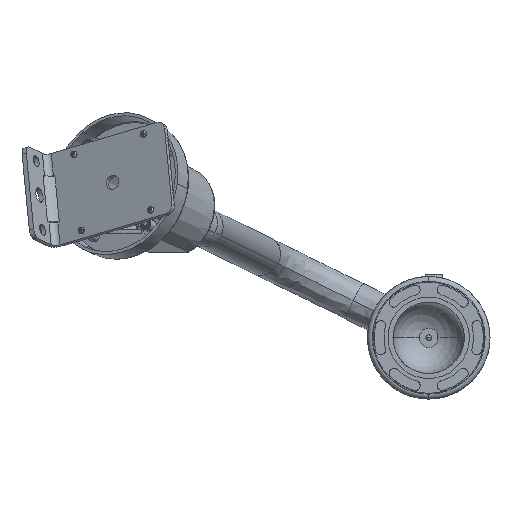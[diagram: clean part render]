
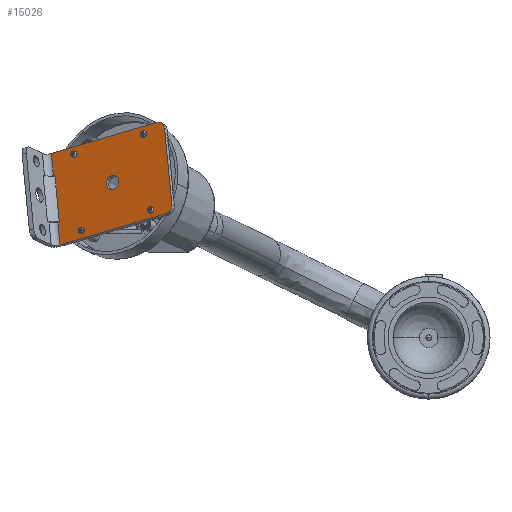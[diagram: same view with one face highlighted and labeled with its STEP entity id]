
A CAD part, left-side view. The second image highlights one B-rep face of the part: STEP entity #15026.
In plain terms, the highlighted planar face has unit normal (-0.82, 0.513, 0.252).
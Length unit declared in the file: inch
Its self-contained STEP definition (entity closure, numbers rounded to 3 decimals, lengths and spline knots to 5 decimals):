
#206=CARTESIAN_POINT('',(1.65618,9.24994,-1.68459));
#207=DIRECTION('',(0.82,-0.513,-0.252));
#208=DIRECTION('',(-0.572,-0.736,-0.362));
#209=AXIS2_PLACEMENT_3D('',#206,#207,#208);
#211=CARTESIAN_POINT('',(1.65618,9.24994,-1.68459));
#212=DIRECTION('',(0.82,-0.513,-0.252));
#213=DIRECTION('',(0.572,0.736,0.362));
#214=AXIS2_PLACEMENT_3D('',#211,#212,#213);
#216=CARTESIAN_POINT('',(1.36482,8.16274,-0.41953));
#217=DIRECTION('',(0.82,-0.513,-0.252));
#218=DIRECTION('',(0.344,0.09,0.935));
#219=AXIS2_PLACEMENT_3D('',#216,#217,#218);
#221=CARTESIAN_POINT('',(0.68766,7.9856,-2.25939));
#222=DIRECTION('',(0.82,-0.513,-0.252));
#223=DIRECTION('',(-0.457,-0.853,0.25));
#224=AXIS2_PLACEMENT_3D('',#221,#222,#223);
#226=CARTESIAN_POINT('',(0.86767,8.32157,-2.35799));
#227=DIRECTION('',(-0.82,0.513,0.252));
#228=DIRECTION('',(0.214,-0.134,0.968));
#229=AXIS2_PLACEMENT_3D('',#226,#227,#228);
#231=CARTESIAN_POINT('',(0.86767,8.32157,-2.35799));
#232=DIRECTION('',(-0.82,0.513,0.252));
#233=DIRECTION('',(-0.214,0.134,-0.968));
#234=AXIS2_PLACEMENT_3D('',#231,#232,#233);
#236=CARTESIAN_POINT('',(1.76772,10.00142,-2.85098));
#237=DIRECTION('',(-0.82,0.513,0.252));
#238=DIRECTION('',(0.214,-0.134,0.968));
#239=AXIS2_PLACEMENT_3D('',#236,#237,#238);
#241=CARTESIAN_POINT('',(1.76772,10.00142,-2.85098));
#242=DIRECTION('',(-0.82,0.513,0.252));
#243=DIRECTION('',(-0.214,0.134,-0.968));
#244=AXIS2_PLACEMENT_3D('',#241,#242,#243);
#246=CARTESIAN_POINT('',(2.44488,10.17855,-1.01112));
#247=DIRECTION('',(-0.82,0.513,0.252));
#248=DIRECTION('',(0.214,-0.134,0.968));
#249=AXIS2_PLACEMENT_3D('',#246,#247,#248);
#251=CARTESIAN_POINT('',(2.44488,10.17855,-1.01112));
#252=DIRECTION('',(-0.82,0.513,0.252));
#253=DIRECTION('',(-0.214,0.134,-0.968));
#254=AXIS2_PLACEMENT_3D('',#251,#252,#253);
#256=CARTESIAN_POINT('',(1.54483,8.4987,-0.51813));
#257=DIRECTION('',(-0.82,0.513,0.252));
#258=DIRECTION('',(0.214,-0.134,0.968));
#259=AXIS2_PLACEMENT_3D('',#256,#257,#258);
#261=CARTESIAN_POINT('',(1.54483,8.4987,-0.51813));
#262=DIRECTION('',(-0.82,0.513,0.252));
#263=DIRECTION('',(-0.214,0.134,-0.968));
#264=AXIS2_PLACEMENT_3D('',#261,#262,#263);
#465=DIRECTION('',(0.344,0.09,0.935));
#466=VECTOR('',#465,1.9685);
#467=CARTESIAN_POINT('',(0.59765,7.81762,-2.21009));
#468=LINE('',#467,#466);
#538=DIRECTION('',(0.457,0.853,-0.25));
#539=VECTOR('',#538,2.99213);
#540=CARTESIAN_POINT('',(1.43253,8.18045,-0.23554));
#541=LINE('',#540,#539);
#600=DIRECTION('',(-0.344,-0.09,-0.935));
#601=VECTOR('',#600,0.59055);
#602=CARTESIAN_POINT('',(2.80061,10.73381,-0.98489));
#603=LINE('',#602,#601);
#609=DIRECTION('',(-0.457,-0.853,0.25));
#610=VECTOR('',#609,0.03937);
#611=CARTESIAN_POINT('',(2.59746,10.68067,-1.53685));
#612=LINE('',#611,#610);
#675=DIRECTION('',(0.457,0.853,-0.25));
#676=VECTOR('',#675,0.03937);
#677=CARTESIAN_POINT('',(2.17316,10.5408,-2.6309));
#678=LINE('',#677,#676);
#688=DIRECTION('',(-0.344,-0.09,-0.935));
#689=VECTOR('',#688,1.1811);
#690=CARTESIAN_POINT('',(2.57946,10.64708,-1.52699));
#691=LINE('',#690,#689);
#692=DIRECTION('',(-0.344,-0.09,-0.935));
#693=VECTOR('',#692,0.59055);
#694=CARTESIAN_POINT('',(2.19117,10.57439,-2.64076));
#695=LINE('',#694,#693);
#722=DIRECTION('',(-0.457,-0.853,0.25));
#723=VECTOR('',#722,2.99213);
#724=CARTESIAN_POINT('',(1.98802,10.52126,-3.19272));
#725=LINE('',#724,#723);
#13199=CARTESIAN_POINT('',(1.98802,10.52126,
-3.19272));
#13200=VERTEX_POINT('',#13199);
#13201=CARTESIAN_POINT('',(0.61994,7.96789,
-2.44338));
#13202=VERTEX_POINT('',#13201);
#13247=CARTESIAN_POINT('',(0.59765,7.81762,
-2.21009));
#13248=VERTEX_POINT('',#13247);
#13249=CARTESIAN_POINT('',(1.27481,7.99475,
-0.37023));
#13250=VERTEX_POINT('',#13249);
#13266=CARTESIAN_POINT('',(1.43253,8.18045,
-0.23554));
#13267=VERTEX_POINT('',#13266);
#13268=CARTESIAN_POINT('',(2.80061,10.73381,
-0.98489));
#13269=VERTEX_POINT('',#13268);
#13986=CARTESIAN_POINT('',(2.17316,10.5408,
-2.6309));
#13987=VERTEX_POINT('',#13986);
#13988=CARTESIAN_POINT('',(2.19117,10.57439,
-2.64076));
#13989=VERTEX_POINT('',#13988);
#13990=CARTESIAN_POINT('',(2.57946,10.64708,
-1.52699));
#13991=VERTEX_POINT('',#13990);
#13992=CARTESIAN_POINT('',(2.59746,10.68067,
-1.53685));
#13993=VERTEX_POINT('',#13992);
#13994=CARTESIAN_POINT('',(0.88451,8.31103,
-2.2818));
#13995=CARTESIAN_POINT('',(0.85082,8.33212,
-2.43418));
#13996=VERTEX_POINT('',#13994);
#13997=VERTEX_POINT('',#13995);
#13998=CARTESIAN_POINT('',(1.78456,9.99087,
-2.77479));
#13999=CARTESIAN_POINT('',(1.75087,10.01197,
-2.92717));
#14000=VERTEX_POINT('',#13998);
#14001=VERTEX_POINT('',#13999);
#14002=CARTESIAN_POINT('',(2.46172,10.168,
-0.93493));
#14003=CARTESIAN_POINT('',(2.42803,10.1891,
-1.08731));
#14004=VERTEX_POINT('',#14002);
#14005=VERTEX_POINT('',#14003);
#14006=CARTESIAN_POINT('',(1.56167,8.48816,
-0.44194));
#14007=CARTESIAN_POINT('',(1.52798,8.50925,
-0.59432));
#14008=VERTEX_POINT('',#14006);
#14009=VERTEX_POINT('',#14007);
#14733=CARTESIAN_POINT('',(1.55481,9.11954,
-1.74869));
#14734=CARTESIAN_POINT('',(1.75755,9.38033,
-1.62049));
#14735=VERTEX_POINT('',#14733);
#14736=VERTEX_POINT('',#14734);
#14970=CARTESIAN_POINT('',(1.66527,9.26686,
-1.68948));
#14971=DIRECTION('',(0.82,-0.513,-0.252));
#14972=DIRECTION('',(-0.457,-0.853,0.25));
#14973=AXIS2_PLACEMENT_3D('',#14970,#14971,#14972);
#14974=PLANE('',#14973);
#14976=ORIENTED_EDGE('',*,*,#14975,.F.);
#14978=ORIENTED_EDGE('',*,*,#14977,.F.);
#14980=ORIENTED_EDGE('',*,*,#14979,.F.);
#14982=ORIENTED_EDGE('',*,*,#14981,.F.);
#14984=ORIENTED_EDGE('',*,*,#14983,.F.);
#14986=ORIENTED_EDGE('',*,*,#14985,.T.);
#14988=ORIENTED_EDGE('',*,*,#14987,.F.);
#14990=ORIENTED_EDGE('',*,*,#14989,.T.);
#14992=ORIENTED_EDGE('',*,*,#14991,.F.);
#14994=ORIENTED_EDGE('',*,*,#14993,.F.);
#14995=EDGE_LOOP('',(#14976,#14978,#14980,#14982,#14984,#14986,#14988,#14990,
#14992,#14994));
#14996=FACE_OUTER_BOUND('',#14995,.F.);
#14998=ORIENTED_EDGE('',*,*,#14997,.F.);
#15000=ORIENTED_EDGE('',*,*,#14999,.F.);
#15001=EDGE_LOOP('',(#14998,#15000));
#15002=FACE_BOUND('',#15001,.F.);
#15004=ORIENTED_EDGE('',*,*,#15003,.T.);
#15006=ORIENTED_EDGE('',*,*,#15005,.T.);
#15007=EDGE_LOOP('',(#15004,#15006));
#15008=FACE_BOUND('',#15007,.F.);
#15010=ORIENTED_EDGE('',*,*,#15009,.T.);
#15011=ORIENTED_EDGE('',*,*,#14959,.T.);
#15012=EDGE_LOOP('',(#15010,#15011));
#15013=FACE_BOUND('',#15012,.F.);
#15015=ORIENTED_EDGE('',*,*,#15014,.T.);
#15017=ORIENTED_EDGE('',*,*,#15016,.T.);
#15018=EDGE_LOOP('',(#15015,#15017));
#15019=FACE_BOUND('',#15018,.F.);
#15021=ORIENTED_EDGE('',*,*,#15020,.T.);
#15023=ORIENTED_EDGE('',*,*,#15022,.T.);
#15024=EDGE_LOOP('',(#15021,#15023));
#15025=FACE_BOUND('',#15024,.F.);
#15026=ADVANCED_FACE('',(#14996,#15002,#15008,#15013,#15019,#15025),#14974,.F.);
#210=CIRCLE('',#209,0.17717);
#215=CIRCLE('',#214,0.17717);
#220=CIRCLE('',#219,0.19685);
#225=CIRCLE('',#224,0.19685);
#230=CIRCLE('',#229,0.07874);
#235=CIRCLE('',#234,0.07874);
#240=CIRCLE('',#239,0.07874);
#245=CIRCLE('',#244,0.07874);
#250=CIRCLE('',#249,0.07874);
#255=CIRCLE('',#254,0.07874);
#260=CIRCLE('',#259,0.07874);
#265=CIRCLE('',#264,0.07874);
#14959=EDGE_CURVE('',#14001,#14000,#245,.T.);
#14975=EDGE_CURVE('',#13987,#13989,#678,.T.);
#14977=EDGE_CURVE('',#13991,#13987,#691,.T.);
#14979=EDGE_CURVE('',#13993,#13991,#612,.T.);
#14981=EDGE_CURVE('',#13269,#13993,#603,.T.);
#14983=EDGE_CURVE('',#13267,#13269,#541,.T.);
#14985=EDGE_CURVE('',#13267,#13250,#220,.T.);
#14987=EDGE_CURVE('',#13248,#13250,#468,.T.);
#14989=EDGE_CURVE('',#13248,#13202,#225,.T.);
#14991=EDGE_CURVE('',#13200,#13202,#725,.T.);
#14993=EDGE_CURVE('',#13989,#13200,#695,.T.);
#14997=EDGE_CURVE('',#14735,#14736,#210,.T.);
#14999=EDGE_CURVE('',#14736,#14735,#215,.T.);
#15003=EDGE_CURVE('',#13996,#13997,#230,.T.);
#15005=EDGE_CURVE('',#13997,#13996,#235,.T.);
#15009=EDGE_CURVE('',#14000,#14001,#240,.T.);
#15014=EDGE_CURVE('',#14004,#14005,#250,.T.);
#15016=EDGE_CURVE('',#14005,#14004,#255,.T.);
#15020=EDGE_CURVE('',#14008,#14009,#260,.T.);
#15022=EDGE_CURVE('',#14009,#14008,#265,.T.);
